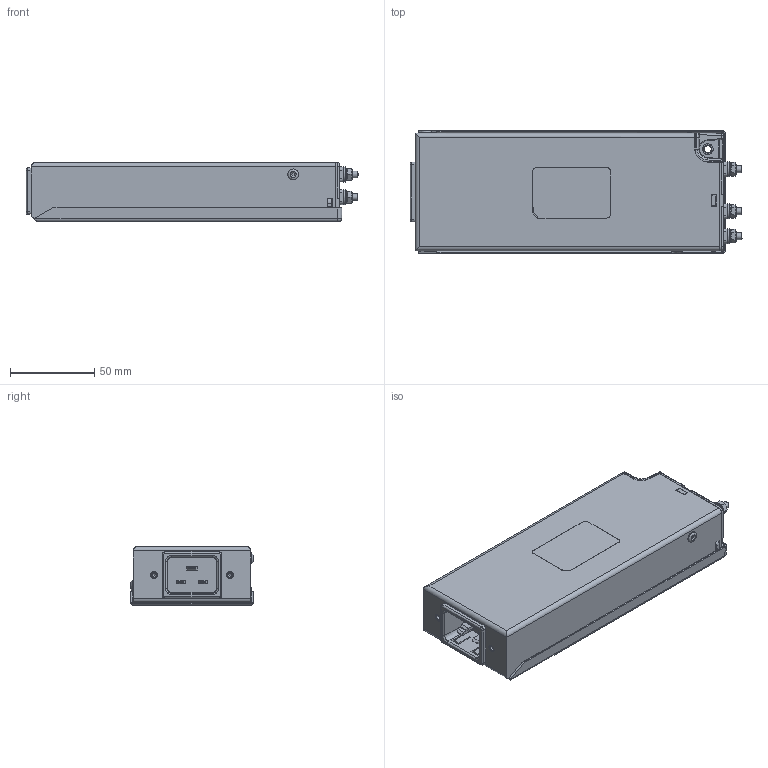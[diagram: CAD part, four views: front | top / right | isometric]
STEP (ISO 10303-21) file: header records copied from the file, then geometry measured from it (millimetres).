
FILE_DESCRIPTION(/* description */ (''),/* implementation_level */ '2;1');
FILE_NAME(/* name */ 'C:\Users\Christian.Ackermann\OneDrive - Schaffner EMV AG\Desktop\UMA_customerSTEP\FN266x-16_20-08.stp',/* time_stamp */ '2021-11-30T11:47:51+01:00',/* author */ ('Christian.Ackermann'),/* organization */ (''),/* preprocessor_version */ 'ST-DEVELOPER v18.1',/* originating_system */ 'Autodesk Inventor 2020',/* authorisation */ '');
FILE_SCHEMA (('AUTOMOTIVE_DESIGN { 1 0 10303 214 3 1 1 }'));
Length unit declared in the file: millimetre
Products named in the file (1): FN266x-16_20-08
Bounding box: 197.3 x 73 x 35.06 mm (x, y, z)
Volume: 429646.4 mm3; surface area: 82710.4 mm2
Topology: 1 solids, 1 shells, 1137 faces, 2961 edges, 1837 vertices
Faces by surface type: plane 579, cylinder 333, bspline 86, cone 61, torus 55, sphere 23
Full cylindrical faces by diameter (mm): 2 x2, 2.459 x2, 4 x6, 4.2 x1, 4.25 x2, 4.3 x3, 6.4 x1, 6.5 x2, 8.39 x2, 8.74 x3, 9 x3
Entity records: 38400 total; most frequent: CARTESIAN_POINT 9076, ORIENTED_EDGE 5896, DIRECTION 5883, EDGE_CURVE 2948, AXIS2_PLACEMENT_3D 2030, VERTEX_POINT 1837, LINE 1823, VECTOR 1823
